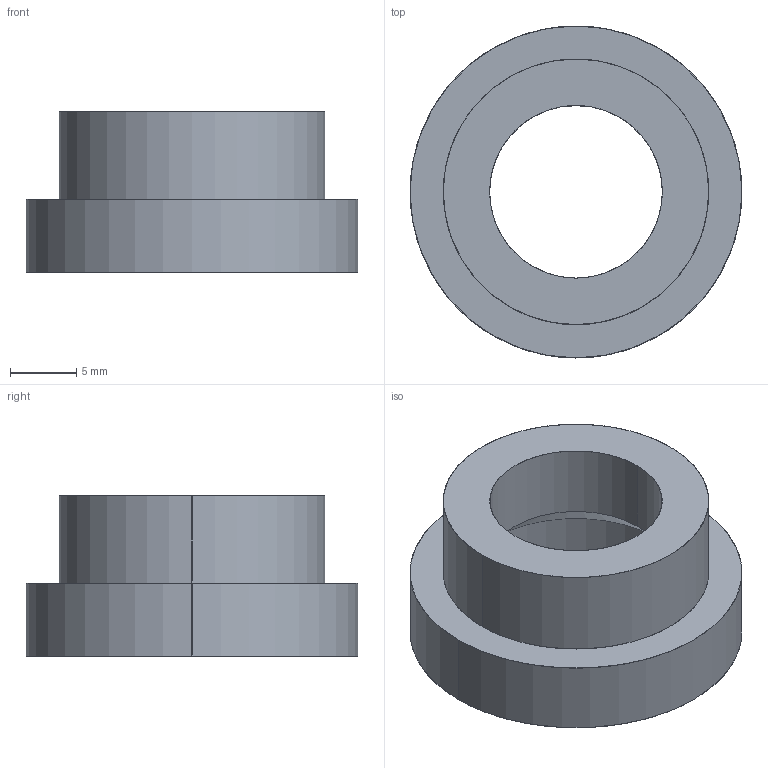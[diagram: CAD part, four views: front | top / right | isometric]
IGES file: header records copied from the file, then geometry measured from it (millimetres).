
Start section: SolidWorks IGES file using analytic representation for surfaces
Global section: file name: X:\11_SW2020-Inv2020\00_全2021-11新製品まで\b\BB1-13\bb1-13.IGS; native system: SolidWorks 2020; preprocessor: SolidWorks 2020; author: ImaoCorp; date: 211025.083258; units: millimetre
Bounding box: 25 x 25 x 12.1 mm (x, y, z)
Surface area: 2070.7 mm2 (no closed solid volume)
Topology: 0 solids, 0 shells, 13 faces, 232 edges, 232 vertices
Faces by surface type: revolution 10, bspline 3
